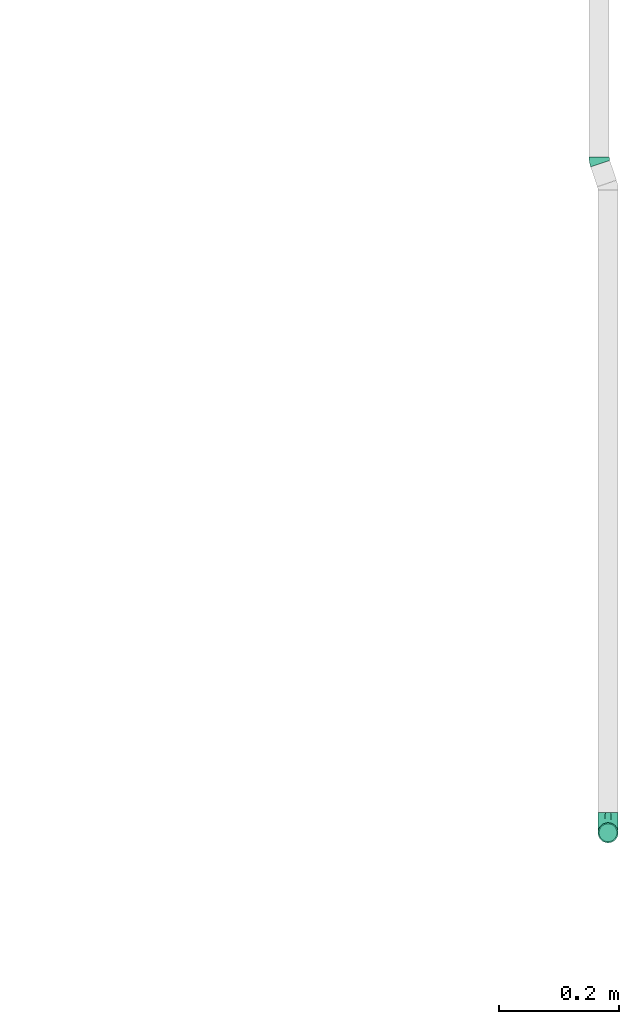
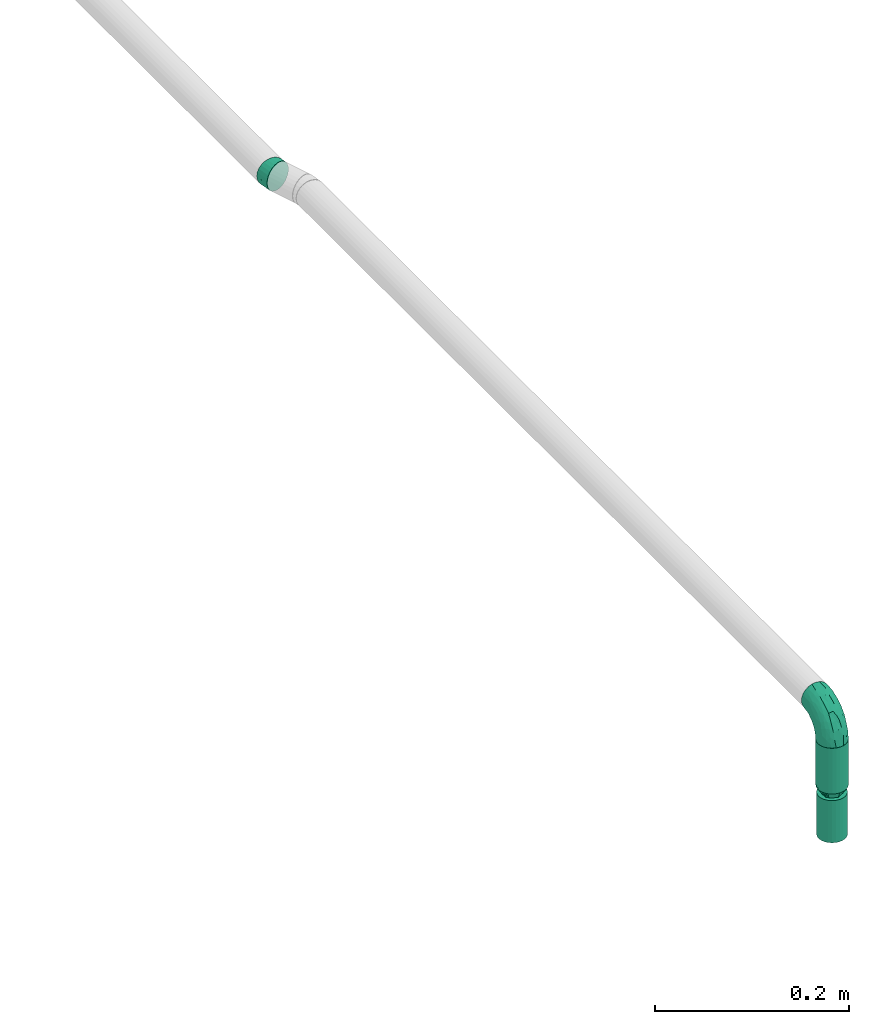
# One storey, part 22 of 32: 3 flow fittings, 1 flow segment, 1 flow terminal.
"""IFC2X3 building model written with IfcOpenShell, lengths in millimetres."""

from ifc_helpers import new_model, entity, si_unit, converted_unit, derived_unit, direction, frame, origin_with_axes, origin_2d_with_axis, place, context, subcontext, project, spatial, hollow_circle, extrude, open_shell, surface_model, source, transform, mapped, type_object, element, save


model = new_model("IFC2X3")

# Units and contexts
model_context = context("Model", 3, precision=0.01, world=frame((0.0, 4.29681676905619e-09, 0.0)), true_north=direction((4.01073788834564e-13, 1.0)))
plan_context = context("Plan", 3, precision=0.01, world=frame((0.0, 4.29681676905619e-09, 0.0)), true_north=direction((4.01073788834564e-13, 1.0)))
body_context = subcontext(model_context, "Body", "Model", "MODEL_VIEW")
ifc_project = project(units=[converted_unit("PLANEANGLEUNIT", "DEGREE", entity("IfcPositiveLengthMeasure", 0.0174532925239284), si_unit("PLANEANGLEUNIT", "RADIAN"), dimensions=[0, 0, 0, 0, 0, 0, 0]), si_unit("AREAUNIT", "SQUARE_METRE"), si_unit("LENGTHUNIT", "METRE", prefix="MILLI"), si_unit("MASSUNIT", "GRAM", prefix="KILO"), si_unit("POWERUNIT", "WATT"), si_unit("PRESSUREUNIT", "PASCAL", prefix="KILO"), si_unit("FORCEUNIT", "NEWTON", prefix="KILO"), si_unit("ELECTRICVOLTAGEUNIT", "VOLT"), si_unit("ELECTRICCURRENTUNIT", "AMPERE"), si_unit("THERMODYNAMICTEMPERATUREUNIT", "DEGREE_CELSIUS"), si_unit("TIMEUNIT", "SECOND"), si_unit("VOLUMEUNIT", "CUBIC_METRE"), derived_unit("LINEARVELOCITYUNIT", [(si_unit("LENGTHUNIT", "METRE"), 1), (si_unit("TIMEUNIT", "SECOND"), -1)]), derived_unit("VOLUMETRICFLOWRATEUNIT", [(si_unit("VOLUMEUNIT", "CUBIC_METRE"), 1), (si_unit("TIMEUNIT", "SECOND"), -1)]), derived_unit("THERMALTRANSMITTANCEUNIT", [(si_unit("POWERUNIT", "WATT"), 1), (si_unit("THERMODYNAMICTEMPERATUREUNIT", "KELVIN"), -1), (si_unit("AREAUNIT", "SQUARE_METRE"), -1)]), derived_unit("SOUNDPRESSUREUNIT", [(si_unit("PRESSUREUNIT", "PASCAL"), 1)])], contexts=[model_context, plan_context])

# Site, building, storey
site_placement = place(None, frame((0.0, -4.29681676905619e-09, 0.0), z_axis=(0.0, 0.0, 1.0), x_axis=(1.0, 0.0, 0.0)))
site = spatial("IfcSite", under=ifc_project, at=site_placement, CompositionType="ELEMENT")
building_placement = place(site_placement, frame((0.0, 4.29681676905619e-09, 0.0), z_axis=(0.0, 0.0, 1.0), x_axis=(1.0, 0.0, 0.0)))
building = spatial("IfcBuilding", under=site, at=building_placement, Name="mc-building", CompositionType="ELEMENT")
storey_placement = place(building_placement, frame((0.0, 0.0, 205200.0), z_axis=(0.0, 0.0, 1.0), x_axis=(1.0, 0.0, 0.0)))
storey = spatial("IfcBuildingStorey", under=building, at=storey_placement, Name="Nivå D + 1,2 m", CompositionType="ELEMENT", Elevation=205200.0)

# Flow fittings
pipe_fitting_type_1 = type_object("IfcPipeFittingType", Name="magi_pipe_fe_elbow_short_001", PredefinedType="BEND")
shared_shape_1 = source(origin_with_axes(), body_context, "Body", "SurfaceModel", [
    surface_model("IfcShellBasedSurfaceModel", [(-33.8, -11.9501, -11.9501), (-33.8, -14.63583, -8.45), (-33.8, -8.45, -14.63583), (-33.8, 0.0, -16.9), (-33.8, -4.37404, -16.32415), (-33.8, -16.32415, -4.37404), (-33.8, -16.9, 0.0), (-33.8, 11.9501, 11.9501), (-33.8, 14.63583, 8.45), (-33.8, 8.45, 14.63583), (-33.8, -11.9501, 11.9501), (-33.8, -8.45, 14.63583), (-33.8, -14.63583, 8.45), (-33.8, -16.32415, 4.37404), (-33.8, -4.37404, 16.32415), (-33.8, 0.0, 16.9), (-33.8, 16.9, 0.0), (-33.8, 16.32415, -4.37404), (-33.8, 16.32415, 4.37404), (-33.8, 4.37404, -16.32415), (-33.8, 8.45, -14.63583), (-33.8, 14.63583, -8.45), (-33.8, 11.9501, -11.9501), (-33.8, 4.37404, 16.32415), (-4.37404, 33.8, -16.32415), (16.9, 33.8, 0.0), (0.0, 33.8, -16.9), (-16.32415, 33.8, -4.37404), (-8.45, 33.8, -14.63583), (-14.63583, 33.8, -8.45), (-11.9501, 33.8, -11.9501), (16.32415, 33.8, 4.37404), (8.45, 33.8, -14.63583), (14.63583, 33.8, -8.45), (11.9501, 33.8, -11.9501), (4.37404, 33.8, -16.32415), (16.32415, 33.8, -4.37404), (-16.32415, 33.8, 4.37404), (-4.37404, 33.8, 16.32415), (-14.63583, 33.8, 8.45), (-8.45, 33.8, 14.63583), (-11.9501, 33.8, 11.9501), (14.63583, 33.8, 8.45), (8.45, 33.8, 14.63583), (11.9501, 33.8, 11.9501), (0.0, 33.8, 16.9), (4.37404, 33.8, 16.32415), (-16.9, 33.8, 0.0), (-24.79389, -13.12945, 9.48721), (-22.19287, -9.75018, 12.59315), (-24.09897, -14.97035, 0.0), (-14.93934, -10.76256, 8.5297), (-22.46095, -14.75051, 5.27077), (14.75051, 22.46094, 5.27077), (11.9251, 13.23888, 4.33236), (13.04069, 14.39795, 0.0), (7.71387, 13.68847, 11.55891), (9.75018, 22.19287, 12.59315), (4.10169, 13.0571, 14.04018), (-24.84007, -6.39063, 15.2048), (-25.81779, -2.23879, 16.61097), (-23.66549, 2.59054, 16.87119), (-26.50418, 14.06512, 11.08152), (-24.21253, 17.66365, 7.72657), (-29.58514, 15.86957, 7.00283), (-6.17382, -7.5455, 0.0), (-13.23888, -11.9251, 4.33236), (-14.39795, -13.04069, 0.0), (-17.81434, 18.87373, 11.97104), (-6.30846, 29.15138, 15.82987), (-2.31622, 25.28002, 16.85849), (-29.23923, 10.23435, 13.77053), (-1.45439, -2.85688, 7.61475), (-0.28326, 0.34872, 10.09509), (-5.74484, -4.04709, 10.4122), (-4.41137, 11.31918, 16.59407), (-8.39727, 3.10034, 15.7812), (-1.72649, 9.1306, 15.53089), (-17.39909, 24.75344, 7.64977), (-26.19233, 20.0512, 0.0), (-28.14518, 17.29657, 4.25857), (-26.05147, 6.6281, 15.96447), (-5.87354, 16.61944, 16.86968), (-12.51807, 12.51807, 16.48937), (-10.06312, 7.38516, 16.81295), (-3.01882, 3.01882, 13.81718), (-13.0571, -4.10169, 14.04018), (-16.82553, -0.15166, 16.38038), (10.76256, 14.93934, 8.5297), (13.12945, 24.79389, 9.48721), (6.39063, 24.84007, 15.2048), (2.23879, 25.81779, 16.61097), (-13.68847, -7.71387, 11.55891), (14.97035, 24.09897, 0.0), (-7.30894, 22.89991, 16.09489), (-10.67958, 26.17414, 14.008), (-12.78295, 18.26924, 15.06066), (-13.88562, 22.45231, 12.93244), (-18.04944, 15.16501, 14.04434), (-23.11658, 20.08178, 4.02986), (-21.84989, 21.84989, 0.0), (-18.55817, 25.48277, 3.93065), (-13.95142, 26.94732, 11.03289), (-18.57098, 7.23906, 16.59756), (-16.58335, 4.14122, 16.89279), (-17.96666, 11.46709, 15.63151), (-9.84453, 17.54304, 16.18938), (0.15166, 16.82553, 16.38038), (-23.27207, 11.47201, 14.23154), (3.84842, 5.86994, 10.70473), (-8.0212, -7.54413, 7.93275), (1.00345, -2.19508, 4.57414), (5.13203, 3.01004, 5.90201), (5.24161, 1.7543, 2.53265), (8.70457, 7.04947, 3.99182), (-20.0512, 26.19233, 0.0), (8.4852, 8.76699, 7.09296), (-4.55488, -6.72064, 4.90681), (2.05031, -2.05031, 0.0), (7.5455, 6.17382, 0.0), (-26.75399, 2.1369, -16.845), (-14.61995, 24.73803, -11.27736), (-28.45274, -13.45335, -9.81895), (-26.00469, 6.63555, -15.96645), (-23.06726, 20.04573, -4.26202), (-13.80647, -4.26506, -14.17873), (-14.67501, -0.21081, -16.07388), (-6.7902, -0.2828, -13.8478), (-24.53586, 11.08096, -14.13417), (-26.72048, 14.00837, -11.05776), (10.0967, 24.44989, -12.75976), (5.83237, 21.40218, -15.03047), (6.66249, 28.54238, -15.38093), (-20.38182, 15.48705, -12.74596), (12.53268, 21.23441, -9.15363), (12.54494, 15.67504, -5.54878), (9.7522, 12.89279, -8.66343), (-15.65186, 19.64213, -13.01327), (-12.03528, 20.66498, -14.67665), (-15.61907, 15.61906, -14.83879), (-25.56551, -15.26206, 0.0), (-24.65452, -15.12934, -5.50955), (13.45335, 28.45274, -9.81895), (15.12934, 24.65452, -5.50955), (-7.35442, -8.31014, -5.65563), (-15.67504, -12.54494, -5.54878), (-24.44989, -10.0967, -12.75976), (0.16522, 0.41303, -9.71728), (-5.70658, -5.33066, -8.89288), (-5.13869, -2.37198, -11.53565), (-21.23441, -12.53268, -9.15363), (0.71146, 7.93863, -14.09382), (0.21081, 14.67501, -16.07388), (3.49291, 14.42772, -14.76381), (-24.89911, -2.13088, -16.591), (-28.54238, -6.66249, -15.38093), (-18.44386, -7.71663, -13.26957), (2.13088, 24.89911, -16.591), (-28.64342, 17.44413, -2.89318), (1.70017, -1.28722, -5.09504), (-16.57067, 26.81947, -7.36596), (-17.69055, 27.4263, -3.76405), (-12.89279, -9.7522, -8.66343), (-5.96611, 5.96611, -15.95814), (-20.53709, 20.09345, -8.28985), (-2.1369, 26.75399, -16.845), (-6.89872, 24.58781, -16.02578), (-10.60739, 26.53157, -13.98044), (-21.40218, -5.83237, -15.03047), (2.93192, 5.89627, -11.55917), (6.89393, 12.61842, -11.82233), (5.58056, 5.95325, -8.79455), (-3.99512, 18.61798, -16.89635), (8.31014, 7.35442, -5.65563), (-9.1383, 9.86148, -16.89041), (-9.99983, 16.02119, -16.39699), (-16.68576, 9.78031, -16.34199), (-27.01915, 16.61158, -7.12979), (15.26206, 25.56551, 0.0), (-18.61798, 3.99512, -16.89635), (-19.37495, 27.82495, 0.0), (-12.61842, -6.89393, -11.82233), (-18.84705, 19.14018, -10.96545)], [open_shell([[[0, 1, 2]], [[3, 4, 2]], [[5, 6, 1]], [[7, 8, 9]], [[10, 11, 12]], [[13, 12, 11]], [[14, 15, 11]], [[16, 17, 18]], [[3, 6, 19]], [[20, 19, 17]], [[20, 17, 21]], [[22, 20, 21]], [[17, 19, 6]], [[2, 1, 6]], [[2, 6, 3]], [[6, 18, 17]], [[23, 18, 6]], [[8, 18, 23]], [[8, 23, 9]], [[13, 23, 6]], [[23, 13, 11]], [[11, 15, 23]], [[24, 25, 26]], [[27, 24, 28]], [[29, 27, 28]], [[29, 28, 30]], [[31, 25, 24]], [[32, 33, 34]], [[32, 35, 26]], [[33, 25, 36]], [[33, 32, 26]], [[25, 33, 26]], [[24, 27, 37]], [[31, 24, 37]], [[38, 37, 39]], [[40, 38, 39]], [[40, 39, 41]], [[31, 37, 38]], [[42, 43, 44]], [[43, 42, 31]], [[43, 45, 46]], [[43, 31, 38]], [[38, 45, 43]], [[37, 27, 47]], [[10, 48, 49]], [[13, 6, 50]], [[51, 48, 52]], [[53, 54, 55]], [[48, 10, 12]], [[13, 52, 12]], [[56, 57, 58]], [[49, 11, 10]], [[49, 59, 11]], [[15, 60, 61]], [[62, 63, 64]], [[65, 66, 67]], [[57, 44, 43]], [[62, 68, 63]], [[38, 69, 70]], [[9, 71, 7]], [[14, 60, 15]], [[72, 73, 74]], [[75, 76, 77]], [[7, 62, 8]], [[39, 37, 78]], [[79, 16, 80]], [[64, 18, 8]], [[15, 61, 23]], [[23, 81, 9]], [[82, 83, 84]], [[74, 85, 86]], [[59, 86, 87]], [[88, 89, 57]], [[90, 43, 46]], [[42, 53, 31]], [[46, 45, 91]], [[54, 53, 88]], [[42, 89, 53]], [[92, 86, 49]], [[89, 42, 44]], [[11, 59, 14]], [[53, 55, 93]], [[93, 31, 53]], [[66, 52, 67]], [[94, 82, 70]], [[95, 96, 94]], [[97, 98, 96]], [[79, 99, 100]], [[40, 41, 95]], [[101, 100, 99]], [[68, 78, 63]], [[38, 40, 69]], [[16, 18, 80]], [[95, 94, 69]], [[78, 101, 99]], [[41, 102, 95]], [[70, 45, 38]], [[97, 95, 102]], [[13, 50, 52]], [[90, 57, 43]], [[57, 90, 58]], [[81, 23, 61]], [[103, 104, 84]], [[105, 81, 103]], [[41, 39, 102]], [[106, 96, 83]], [[94, 106, 82]], [[91, 70, 107]], [[71, 62, 7]], [[62, 108, 98]], [[86, 59, 49]], [[67, 52, 50]], [[60, 59, 87]], [[92, 49, 51]], [[86, 85, 76]], [[91, 90, 46]], [[25, 31, 93]], [[107, 77, 58]], [[107, 58, 90]], [[58, 85, 109]], [[110, 74, 92]], [[72, 74, 110]], [[66, 51, 52]], [[72, 111, 112]], [[113, 114, 112]], [[56, 88, 57]], [[52, 48, 12]], [[49, 48, 51]], [[57, 89, 44]], [[53, 89, 88]], [[103, 81, 61]], [[71, 81, 108]], [[18, 64, 80]], [[63, 78, 99]], [[47, 115, 101]], [[101, 115, 100]], [[39, 78, 102]], [[68, 102, 78]], [[97, 96, 95]], [[105, 98, 108]], [[103, 84, 83]], [[107, 70, 82]], [[76, 84, 87]], [[82, 84, 75]], [[70, 91, 45]], [[90, 91, 107]], [[59, 60, 14]], [[61, 60, 87]], [[73, 85, 74]], [[109, 112, 116]], [[103, 61, 104]], [[105, 103, 83]], [[96, 105, 83]], [[81, 105, 108]], [[96, 98, 105]], [[62, 98, 68]], [[61, 87, 104]], [[87, 84, 104]], [[86, 76, 87]], [[77, 76, 85]], [[58, 77, 85]], [[75, 77, 107]], [[82, 75, 107]], [[76, 75, 84]], [[81, 71, 9]], [[62, 71, 108]], [[95, 69, 40]], [[70, 69, 94]], [[62, 64, 8]], [[80, 63, 99]], [[63, 80, 64]], [[80, 99, 79]], [[66, 65, 117]], [[110, 66, 117]], [[112, 114, 116]], [[118, 117, 65]], [[110, 92, 51]], [[112, 111, 113]], [[119, 55, 54]], [[74, 86, 92]], [[58, 109, 56]], [[116, 56, 109]], [[66, 110, 51]], [[72, 110, 117]], [[111, 72, 117]], [[73, 112, 109]], [[117, 118, 111]], [[113, 111, 118]], [[118, 119, 113]], [[114, 119, 54]], [[119, 114, 113]], [[116, 54, 88]], [[54, 116, 114]], [[116, 88, 56]], [[112, 73, 72]], [[85, 73, 109]], [[78, 37, 101]], [[47, 101, 37]], [[102, 68, 97]], [[97, 68, 98]], [[82, 106, 83]], [[94, 96, 106]], [[19, 120, 3]], [[29, 30, 121]], [[0, 122, 1]], [[20, 123, 19]], [[100, 124, 79]], [[125, 126, 127]], [[128, 22, 129]], [[130, 131, 132]], [[128, 129, 133]], [[134, 135, 136]], [[137, 138, 139]], [[128, 20, 22]], [[67, 140, 141]], [[134, 142, 143]], [[141, 5, 1]], [[144, 65, 145]], [[146, 0, 2]], [[147, 148, 149]], [[145, 141, 150]], [[151, 152, 153]], [[154, 4, 3]], [[2, 155, 146]], [[150, 146, 156]], [[155, 2, 4]], [[143, 135, 134]], [[35, 157, 26]], [[16, 79, 158]], [[148, 159, 144]], [[160, 161, 27]], [[145, 162, 144]], [[163, 152, 151]], [[27, 29, 160]], [[121, 164, 160]], [[32, 34, 130]], [[26, 165, 24]], [[24, 165, 166]], [[142, 34, 33]], [[30, 28, 167]], [[124, 161, 164]], [[157, 35, 132]], [[155, 154, 168]], [[123, 20, 128]], [[169, 170, 171]], [[172, 157, 152]], [[24, 166, 28]], [[132, 35, 32]], [[142, 130, 34]], [[168, 154, 126]], [[136, 135, 173]], [[133, 137, 139]], [[22, 21, 129]], [[170, 131, 130]], [[33, 36, 143]], [[172, 174, 175]], [[176, 123, 128]], [[158, 177, 17]], [[135, 55, 119]], [[167, 28, 166]], [[175, 166, 172]], [[137, 167, 138]], [[122, 141, 1]], [[140, 6, 5]], [[36, 25, 178]], [[170, 130, 134]], [[152, 157, 131]], [[165, 157, 172]], [[153, 170, 151]], [[152, 163, 174]], [[168, 125, 156]], [[122, 146, 150]], [[120, 154, 3]], [[179, 174, 126]], [[179, 126, 154]], [[126, 163, 127]], [[162, 145, 150]], [[140, 5, 141]], [[36, 178, 143]], [[55, 143, 178]], [[177, 129, 21]], [[128, 133, 139]], [[176, 128, 139]], [[120, 123, 179]], [[121, 160, 29]], [[161, 100, 180]], [[166, 175, 138]], [[121, 30, 167]], [[161, 47, 27]], [[79, 124, 158]], [[124, 164, 177]], [[161, 124, 100]], [[136, 171, 170]], [[127, 163, 151]], [[147, 171, 159]], [[148, 144, 162]], [[127, 151, 169]], [[127, 181, 125]], [[129, 177, 164]], [[21, 17, 177]], [[159, 65, 144]], [[67, 141, 145]], [[143, 55, 135]], [[135, 119, 173]], [[123, 120, 19]], [[154, 120, 179]], [[157, 165, 26]], [[166, 165, 172]], [[172, 152, 174]], [[176, 139, 175]], [[126, 174, 163]], [[176, 174, 179]], [[174, 176, 175]], [[123, 176, 179]], [[150, 181, 162]], [[127, 149, 181]], [[181, 148, 162]], [[159, 148, 147]], [[171, 136, 173]], [[170, 134, 136]], [[159, 171, 173]], [[171, 147, 169]], [[169, 147, 149]], [[151, 170, 169]], [[164, 182, 129]], [[182, 121, 137]], [[181, 149, 148]], [[169, 149, 127]], [[182, 137, 133]], [[167, 137, 121]], [[166, 138, 167]], [[175, 139, 138]], [[129, 182, 133]], [[121, 182, 164]], [[161, 160, 164]], [[47, 161, 180]], [[177, 158, 124]], [[16, 158, 17]], [[130, 132, 32]], [[157, 132, 131]], [[143, 142, 33]], [[130, 142, 134]], [[154, 155, 4]], [[146, 155, 168]], [[146, 122, 0]], [[141, 122, 150]], [[152, 131, 153]], [[159, 119, 118]], [[67, 145, 65]], [[170, 153, 131]], [[119, 159, 173]], [[159, 118, 65]], [[156, 125, 181]], [[126, 125, 168]], [[150, 156, 181]], [[168, 156, 146]]])]),
])
flow_fitting_1_placement = place(storey_placement, frame((347627.5, 460358.43146, 4433.60793), z_axis=(1.0, 0.0, 0.0), x_axis=(0.0, -1.0, 0.0)))
element("IfcFlowFitting", 1, at=flow_fitting_1_placement, inside=storey, type_object=pipe_fitting_type_1, Name="magi_pipe_fe_elbow_short_001", context=body_context, shape_type="MappedRepresentation", body=[
    mapped(shared_shape_1, transform((0.0, 0.0, 0.0), scale=1.0)),
])
pipe_fitting_type_2 = type_object("IfcPipeFittingType", Name="magi_pipe_fe_reducer_centric_short_001", PredefinedType="TRANSITION")
shared_shape_2 = source(origin_with_axes(), body_context, "Body", "SurfaceModel", [
    surface_model("IfcShellBasedSurfaceModel", [(-2.0, 11.9501, 11.9501), (-2.0, 0.0, 16.9), (-2.0, 4.37404, 16.32415), (-2.0, 8.45, 14.63583), (-2.0, 14.63583, 8.45), (-2.0, 16.32415, 4.37404), (-2.0, -16.32415, 4.37404), (-2.0, -8.45, 14.63583), (-2.0, -14.63583, 8.45), (-2.0, -11.9501, 11.9501), (-2.0, -4.37404, 16.32415), (-2.0, -16.32415, -4.37404), (-2.0, -16.9, 0.0), (-2.0, -8.45, -14.63583), (-2.0, 16.32415, -4.37404), (-2.0, 11.9501, -11.9501), (-2.0, 14.63583, -8.45), (-2.0, 8.45, -14.63583), (-2.0, 4.37404, -16.32415), (-2.0, 0.0, -16.9), (-2.0, -11.9501, -11.9501), (-2.0, -14.63583, -8.45), (-2.0, -4.37404, -16.32415), (-2.0, 16.9, 0.0), (0.0, 4.37404, -16.32415), (0.0, 8.45, -14.63583), (0.0, 11.9501, -11.9501), (0.0, 0.0, -16.9), (0.0, 16.32415, -4.37404), (0.0, 16.32415, 4.37404), (0.0, 14.63583, -8.45), (0.0, -8.45, -14.63583), (0.0, -4.37404, -16.32415), (0.0, -11.9501, -11.9501), (0.0, -16.32415, -4.37404), (0.0, -14.63583, -8.45), (0.0, -16.32415, 4.37404), (0.0, 16.9, 0.0), (0.0, 14.63583, 8.45), (0.0, 11.9501, 11.9501), (0.0, 4.37404, 16.32415), (0.0, 8.45, 14.63583), (0.0, 0.0, 16.9), (0.0, -14.63583, 8.45), (0.0, -16.9, 0.0), (0.0, -8.45, 14.63583), (0.0, -11.9501, 11.9501), (0.0, -4.37404, 16.32415), (14.4, 5.35, -9.26647), (14.4, 0.0, -10.7), (14.4, 2.76936, -10.33541), (14.4, 10.33541, -2.76936), (14.4, 7.56604, -7.56604), (14.4, -5.35, -9.26647), (14.4, 9.26647, -5.35), (14.4, -9.26647, 5.35), (14.4, -2.76936, -10.33541), (14.4, -7.56604, -7.56604), (14.4, -10.33541, -2.76936), (14.4, -9.26647, -5.35), (14.4, 10.33541, 2.76936), (14.4, 10.7, 0.0), (14.4, 9.26647, 5.35), (14.4, 7.56604, 7.56604), (14.4, 2.76936, 10.33541), (14.4, 0.0, 10.7), (14.4, 5.35, 9.26647), (14.4, -10.33541, 2.76936), (14.4, -10.7, 0.0), (14.4, -7.56604, 7.56604), (14.4, -2.76936, 10.33541), (14.4, -5.35, 9.26647), (12.4, 0.0, 10.7), (12.4, 2.76936, 10.33541), (12.4, 5.35, 9.26647), (12.4, 7.56604, 7.56604), (12.4, 9.26647, 5.35), (12.4, 10.33541, 2.76936), (12.4, -10.33541, 2.76936), (12.4, 10.33541, -2.76936), (12.4, -2.76936, 10.33541), (12.4, -7.56604, 7.56604), (12.4, -5.35, 9.26647), (12.4, -9.26647, 5.35), (12.4, -10.33541, -2.76936), (12.4, -10.7, 0.0), (12.4, 2.76936, -10.33541), (12.4, 9.26647, -5.35), (12.4, 7.56604, -7.56604), (12.4, 5.35, -9.26647), (12.4, -7.56604, -7.56604), (12.4, -9.26647, -5.35), (12.4, -5.35, -9.26647), (12.4, 0.0, -10.7), (12.4, -2.76936, -10.33541), (12.4, 10.7, 0.0), (12.4, 9.3625, -2.31662), (0.0, 14.42505, -5.97505), (0.0, 15.66253, -2.98753), (12.4, -6.6875, -6.94985), (0.0, -13.18758, -8.96258), (0.0, 2.98753, -15.66253), (12.4, 0.0, -9.26647), (12.4, 6.6875, -6.94985), (0.0, 8.96258, -13.18758), (12.4, -9.3625, -2.31662), (0.0, -15.66253, -2.98753), (0.0, -14.42505, -5.97505), (0.0, 5.97505, -14.42505), (0.0, -2.98753, -15.66253), (0.0, -8.96258, -13.18758), (0.0, 13.18758, -8.96258), (12.4, 8.025, -4.63324), (12.4, -2.675, -9.26647), (12.4, 2.675, -9.26647), (0.0, -5.97505, -14.42505), (12.4, -8.025, -4.63324), (12.4, -9.3625, 2.31662), (0.0, -14.42505, 5.97505), (0.0, -15.66253, 2.98753), (12.4, 6.6875, 6.94985), (0.0, 13.18758, 8.96258), (0.0, -2.98753, 15.66253), (12.4, 0.0, 9.26647), (12.4, -6.6875, 6.94985), (0.0, -8.96258, 13.18758), (12.4, 9.3625, 2.31662), (0.0, 15.66253, 2.98753), (0.0, 14.42505, 5.97505), (0.0, -5.97505, 14.42505), (0.0, 2.98753, 15.66253), (0.0, 8.96258, 13.18758), (0.0, -13.18758, 8.96258), (12.4, -8.025, 4.63324), (12.4, 2.675, 9.26647), (12.4, -2.675, 9.26647), (0.0, 5.97505, 14.42505), (12.4, 8.025, 4.63324)], [open_shell([[[0, 1, 2]], [[0, 2, 3]], [[0, 4, 5]], [[0, 5, 1]], [[1, 5, 6]], [[7, 8, 9]], [[7, 10, 1]], [[8, 7, 1]], [[1, 6, 8]], [[6, 11, 12]], [[6, 5, 13]], [[5, 14, 15]], [[15, 14, 16]], [[15, 17, 18]], [[13, 5, 15]], [[19, 15, 18]], [[11, 20, 21]], [[20, 11, 13]], [[13, 19, 22]], [[11, 6, 13]], [[15, 19, 13]], [[5, 23, 14]], [[24, 25, 26]], [[27, 24, 26]], [[26, 28, 29]], [[28, 26, 30]], [[26, 29, 31]], [[27, 31, 32]], [[27, 26, 31]], [[33, 34, 35]], [[34, 33, 31]], [[31, 36, 34]], [[29, 28, 37]], [[29, 38, 39]], [[29, 39, 40]], [[40, 36, 31]], [[40, 39, 41]], [[36, 40, 42]], [[42, 43, 36]], [[44, 34, 36]], [[43, 45, 46]], [[43, 42, 45]], [[45, 42, 47]], [[31, 29, 40]], [[11, 34, 12]], [[21, 35, 11]], [[31, 20, 13]], [[21, 20, 33]], [[32, 13, 22]], [[11, 35, 34]], [[34, 44, 12]], [[32, 31, 13]], [[33, 20, 31]], [[33, 35, 21]], [[27, 32, 22]], [[22, 19, 27]], [[18, 24, 19]], [[17, 25, 18]], [[30, 15, 16]], [[17, 15, 26]], [[28, 16, 14]], [[17, 26, 25]], [[25, 24, 18]], [[37, 28, 14]], [[30, 16, 28]], [[30, 26, 15]], [[23, 37, 14]], [[19, 24, 27]], [[5, 29, 23]], [[4, 38, 5]], [[41, 0, 3]], [[4, 0, 39]], [[40, 3, 2]], [[5, 38, 29]], [[29, 37, 23]], [[40, 41, 3]], [[39, 0, 41]], [[39, 38, 4]], [[42, 40, 2]], [[2, 1, 42]], [[10, 47, 1]], [[7, 45, 10]], [[43, 9, 8]], [[7, 9, 46]], [[36, 8, 6]], [[7, 46, 45]], [[45, 47, 10]], [[44, 36, 6]], [[43, 8, 36]], [[43, 46, 9]], [[12, 44, 6]], [[1, 47, 42]], [[33, 44, 27]], [[48, 49, 50]], [[51, 48, 52]], [[53, 48, 51]], [[51, 52, 54]], [[55, 53, 51]], [[49, 53, 56]], [[49, 48, 53]], [[57, 58, 59]], [[58, 57, 53]], [[53, 55, 58]], [[60, 51, 61]], [[60, 62, 63]], [[51, 63, 55]], [[64, 65, 63]], [[64, 63, 66]], [[55, 63, 65]], [[58, 67, 68]], [[55, 67, 58]], [[69, 70, 71]], [[70, 69, 55]], [[65, 70, 55]], [[51, 60, 63]], [[72, 73, 74]], [[72, 74, 75]], [[75, 76, 77]], [[72, 75, 78]], [[79, 78, 75]], [[80, 81, 82]], [[81, 80, 78]], [[81, 78, 83]], [[80, 72, 78]], [[78, 84, 85]], [[79, 75, 77]], [[84, 78, 79]], [[86, 79, 87]], [[88, 89, 86]], [[88, 86, 87]], [[84, 79, 86]], [[84, 90, 91]], [[90, 84, 92]], [[92, 93, 94]], [[92, 84, 86]], [[86, 93, 92]], [[79, 77, 95]], [[84, 58, 85]], [[91, 59, 84]], [[53, 90, 92]], [[91, 90, 57]], [[56, 92, 94]], [[84, 59, 58]], [[58, 68, 85]], [[56, 53, 92]], [[57, 90, 53]], [[57, 59, 91]], [[49, 56, 94]], [[94, 93, 49]], [[86, 50, 93]], [[89, 48, 86]], [[54, 88, 87]], [[89, 88, 52]], [[51, 87, 79]], [[89, 52, 48]], [[48, 50, 86]], [[61, 51, 79]], [[54, 87, 51]], [[54, 52, 88]], [[95, 61, 79]], [[93, 50, 49]], [[77, 60, 95]], [[76, 62, 77]], [[66, 75, 74]], [[76, 75, 63]], [[64, 74, 73]], [[77, 62, 60]], [[60, 61, 95]], [[64, 66, 74]], [[63, 75, 66]], [[63, 62, 76]], [[65, 64, 73]], [[73, 72, 65]], [[80, 70, 72]], [[82, 71, 80]], [[55, 81, 83]], [[82, 81, 69]], [[67, 83, 78]], [[82, 69, 71]], [[71, 70, 80]], [[68, 67, 78]], [[55, 83, 67]], [[55, 69, 81]], [[85, 68, 78]], [[72, 70, 65]], [[74, 82, 95]], [[95, 82, 92]], [[92, 89, 95]], [[92, 82, 85]], [[42, 39, 44]], [[44, 46, 42]], [[39, 26, 44]], [[27, 44, 26]], [[26, 39, 37]], [[96, 97, 98]], [[33, 99, 100]], [[101, 102, 27]], [[98, 37, 95]], [[26, 103, 104]], [[104, 103, 89]], [[105, 106, 107]], [[89, 108, 104]], [[102, 109, 27]], [[110, 99, 33]], [[95, 96, 98]], [[103, 111, 112]], [[109, 102, 113]], [[85, 44, 106]], [[102, 101, 114]], [[110, 115, 92]], [[96, 112, 97]], [[107, 116, 105]], [[85, 106, 105]], [[113, 115, 109]], [[92, 115, 113]], [[116, 107, 100]], [[108, 89, 114]], [[111, 103, 26]], [[111, 97, 112]], [[99, 110, 92]], [[116, 100, 99]], [[101, 108, 114]], [[117, 118, 119]], [[39, 120, 121]], [[122, 123, 42]], [[119, 44, 85]], [[46, 124, 125]], [[125, 124, 82]], [[126, 127, 128]], [[82, 129, 125]], [[123, 130, 42]], [[131, 120, 39]], [[85, 117, 119]], [[124, 132, 133]], [[130, 123, 134]], [[95, 37, 127]], [[123, 122, 135]], [[131, 136, 74]], [[117, 133, 118]], [[128, 137, 126]], [[95, 127, 126]], [[134, 136, 130]], [[74, 136, 134]], [[137, 128, 121]], [[129, 82, 135]], [[132, 124, 46]], [[132, 118, 133]], [[120, 131, 74]], [[137, 121, 120]], [[122, 129, 135]]])]),
])
flow_fitting_2_placement = place(storey_placement, frame((347627.5, 460358.43146, 4342.78346000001), z_axis=(1.0, 0.0, 0.0), x_axis=(0.0, 0.0, -1.0)))
element("IfcFlowFitting", 2, at=flow_fitting_2_placement, inside=storey, type_object=pipe_fitting_type_2, Name="magi_pipe_fe_reducer_centric_short_001", context=body_context, shape_type="MappedRepresentation", body=[
    mapped(shared_shape_2, transform((0.0, 0.0, 0.0), scale=1.0)),
])
shared_shape_3 = source(origin_with_axes(), body_context, "Body", "SurfaceModel", [
    surface_model("IfcShellBasedSurfaceModel", [(-5.62725, 4.37404, -16.32415), (-5.62725, 0.0, -16.9), (-5.62725, 11.9501, -11.9501), (-5.62725, 8.45, -14.63583), (-5.62725, 16.32415, -4.37404), (-5.62725, 14.63583, -8.45), (-5.62725, -14.63583, -8.45), (-5.62725, -16.32415, -4.37404), (-5.62725, -8.45, 14.63583), (-5.62725, -11.9501, -11.9501), (-5.62725, -8.45, -14.63583), (-5.62725, -4.37404, -16.32415), (-5.62725, -16.9, 0.0), (-5.62725, -16.32415, 4.37404), (-5.62725, 11.9501, 11.9501), (-5.62725, 16.32415, 4.37404), (-5.62725, 14.63583, 8.45), (-5.62725, 4.37404, 16.32415), (-5.62725, 8.45, 14.63583), (-5.62725, -14.63583, 8.45), (-5.62725, -11.9501, 11.9501), (-5.62725, -4.37404, 16.32415), (-5.62725, 0.0, 16.9), (-5.62725, 16.9, 0.0), (1.45196, 13.1287, -11.9501), (5.32371, 1.82319, -16.9), (3.90655, 5.96129, -16.32415), (2.58597, 9.81739, -14.63583), (0.58181, 15.66955, -8.45), (0.0348, 17.2668, -4.37404), (9.19546, -9.48232, -11.9501), (9.19546, -9.48232, 11.9501), (8.06145, -6.17101, -14.63583), (6.74087, -2.31491, -16.32415), (10.61262, -13.62042, -4.37404), (10.06562, -12.02318, -8.45), (10.06562, -12.02318, 8.45), (10.61262, -13.62042, 4.37404), (10.79919, -14.16522, 0.0), (-0.15177, 17.81159, 0.0), (0.0348, 17.2668, 4.37404), (0.58181, 15.66955, 8.45), (1.45196, 13.1287, 11.9501), (2.58597, 9.81739, 14.63583), (3.90655, 5.96129, 16.32415), (5.32371, 1.82319, 16.9), (8.06145, -6.17101, 14.63583), (6.74087, -2.31491, 16.32415), (-2.85183, 17.12946, 0.0), (2.69902, -16.21163, 0.0)], [open_shell([[[0, 1, 2]], [[3, 0, 2]], [[4, 5, 2]], [[6, 2, 1]], [[2, 7, 8]], [[9, 6, 10]], [[1, 11, 10]], [[1, 10, 6]], [[6, 7, 2]], [[12, 13, 7]], [[4, 2, 14]], [[14, 15, 4]], [[16, 15, 14]], [[17, 18, 14]], [[2, 8, 14]], [[17, 14, 8]], [[19, 20, 13]], [[13, 20, 7]], [[21, 22, 8]], [[20, 8, 7]], [[8, 22, 17]], [[23, 4, 15]], [[24, 25, 26]], [[24, 26, 27]], [[24, 28, 29]], [[25, 24, 30]], [[24, 31, 30]], [[25, 32, 33]], [[25, 30, 32]], [[30, 34, 35]], [[30, 36, 34]], [[34, 37, 38]], [[39, 24, 29]], [[39, 40, 41]], [[41, 42, 24]], [[42, 43, 44]], [[42, 31, 24]], [[45, 42, 44]], [[31, 36, 30]], [[37, 34, 36]], [[46, 45, 47]], [[45, 46, 31]], [[45, 31, 42]], [[41, 24, 39]], [[20, 19, 31]], [[46, 8, 20]], [[47, 21, 8]], [[45, 22, 21]], [[17, 22, 44]], [[13, 36, 19]], [[16, 14, 41]], [[18, 42, 14]], [[48, 15, 40]], [[48, 23, 15]], [[40, 15, 16]], [[43, 18, 17]], [[13, 12, 49]], [[46, 47, 8]], [[20, 31, 46]], [[47, 45, 21]], [[36, 13, 37]], [[19, 36, 31]], [[49, 38, 37]], [[41, 40, 16]], [[39, 48, 40]], [[43, 17, 44]], [[18, 43, 42]], [[41, 14, 42]], [[44, 22, 45]], [[13, 49, 37]], [[1, 33, 11]], [[1, 0, 25]], [[5, 28, 2]], [[2, 24, 3]], [[29, 5, 4]], [[3, 26, 0]], [[49, 12, 7]], [[34, 49, 7]], [[30, 9, 10]], [[7, 6, 34]], [[9, 35, 6]], [[32, 10, 11]], [[4, 23, 48]], [[48, 39, 29]], [[29, 28, 5]], [[24, 2, 28]], [[3, 27, 26]], [[3, 24, 27]], [[26, 25, 0]], [[32, 11, 33]], [[30, 10, 32]], [[6, 35, 34]], [[34, 38, 49]], [[35, 9, 30]], [[25, 33, 1]], [[4, 48, 29]]])]),
])
flow_fitting_3_placement = place(storey_placement, frame((347612.5, 461482.23146, 4433.60793), z_axis=(0.0, 0.0, 1.0), x_axis=(0.0, -1.0, 0.0)))
element("IfcFlowFitting", 3, at=flow_fitting_3_placement, inside=storey, type_object=pipe_fitting_type_1, Name="magi_pipe_fe_elbow_short_001", context=body_context, shape_type="MappedRepresentation", body=[
    mapped(shared_shape_3, transform((0.0, 0.0, 0.0), scale=1.0)),
])

# Flow segment
pipe_segment_type = type_object("IfcPipeSegmentType", Name="Stålrør normaltykke", PredefinedType="RIGIDSEGMENT")
shared_shape_4 = source(origin_with_axes(), body_context, "Body", "SweptSolid", [
    extrude(hollow_circle(Radius=16.9, WallThickness=2.0, at=origin_2d_with_axis()), frame((0.0, 0.0, 0.0), z_axis=(1.0, 0.0, 0.0), x_axis=(0.0, 1.0, 0.0)), (0.0, 0.0, 1.0), 57.4),
])
flow_segment_placement = place(storey_placement, frame((347627.5, 460358.43146, 4399.80793000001), z_axis=(-1.0, 0.0, 0.0), x_axis=(0.0, 0.0, -1.0)))
element("IfcFlowSegment", 4, at=flow_segment_placement, inside=storey, type_object=pipe_segment_type, Name="Stålrør normaltykke", context=body_context, shape_type="MappedRepresentation", body=[
    mapped(shared_shape_4, transform((0.0, 0.0, 0.0), scale=1.0)),
])

# Flow terminal
fire_suppression_terminal_type = type_object("IfcFireSuppressionTerminalType", Name="SP-15-K80-68DGR-STD-NEDOVER", PredefinedType="NOTDEFINED")
shared_shape_5 = source(origin_with_axes(), body_context, "Body", "SurfaceModel", [
    surface_model("IfcShellBasedSurfaceModel", [(4.1411, -15.45481, 53.0), (8.0, -13.85641, 53.0), (11.31371, -11.31371, 53.0), (-8.0, -13.85641, 53.0), (15.45481, -4.1411, 53.0), (16.0, 0.0, 53.0), (13.85641, -8.0, 53.0), (0.0, -16.0, 53.0), (-4.1411, -15.45481, 53.0), (-13.85641, -8.0, 53.0), (-11.31371, -11.31371, 53.0), (-15.45481, -4.1411, 53.0), (15.45481, 4.1411, 53.0), (13.85641, 8.0, 53.0), (11.31371, 11.31371, 53.0), (-4.1411, 15.45481, 53.0), (8.0, 13.85641, 53.0), (4.1411, 15.45481, 53.0), (0.0, 16.0, 53.0), (-13.85641, 8.0, 53.0), (-15.45481, 4.1411, 53.0), (-16.0, 0.0, 53.0), (-11.31371, 11.31371, 53.0), (-8.0, 13.85641, 53.0), (0.0, 16.0, 0.0), (4.1411, 15.45481, 0.0), (8.0, 13.85641, 0.0), (-4.1411, 15.45481, 0.0), (11.31371, 11.31371, 0.0), (13.85641, 8.0, 0.0), (15.45481, 4.1411, 0.0), (-15.45481, -4.1411, 0.0), (-11.31371, 11.31371, 0.0), (-8.0, 13.85641, 0.0), (-13.85641, 8.0, 0.0), (-15.45481, 4.1411, 0.0), (-16.0, 0.0, 0.0), (4.1411, -15.45481, 0.0), (16.0, 0.0, 0.0), (15.45481, -4.1411, 0.0), (13.85641, -8.0, 0.0), (11.31371, -11.31371, 0.0), (8.0, -13.85641, 0.0), (-8.0, -13.85641, 0.0), (-13.85641, -8.0, 0.0), (-11.31371, -11.31371, 0.0), (0.0, -16.0, 0.0), (-4.1411, -15.45481, 0.0)], [open_shell([[[0, 1, 2]], [[3, 0, 2]], [[4, 5, 2]], [[4, 2, 6]], [[3, 2, 5]], [[7, 3, 8]], [[7, 0, 3]], [[3, 9, 10]], [[9, 3, 11]], [[5, 11, 3]], [[5, 12, 11]], [[12, 13, 14]], [[15, 12, 14]], [[16, 17, 18]], [[14, 16, 15]], [[18, 15, 16]], [[11, 19, 20]], [[21, 11, 20]], [[22, 15, 23]], [[15, 22, 19]], [[19, 11, 15]], [[11, 12, 15]], [[24, 25, 26]], [[27, 24, 26]], [[28, 29, 30]], [[27, 26, 28]], [[27, 28, 31]], [[27, 32, 33]], [[32, 27, 34]], [[34, 31, 35]], [[31, 34, 27]], [[35, 31, 36]], [[28, 30, 31]], [[37, 38, 39]], [[37, 39, 40]], [[41, 42, 37]], [[41, 37, 40]], [[38, 37, 43]], [[44, 43, 45]], [[43, 44, 31]], [[43, 46, 47]], [[43, 31, 38]], [[37, 46, 43]], [[38, 31, 30]], [[11, 31, 44]], [[45, 9, 44]], [[3, 43, 47]], [[45, 43, 10]], [[8, 47, 46]], [[31, 21, 36]], [[31, 11, 21]], [[44, 9, 11]], [[45, 10, 9]], [[3, 10, 43]], [[47, 8, 3]], [[46, 7, 8]], [[0, 37, 42]], [[41, 1, 42]], [[6, 40, 39]], [[41, 40, 2]], [[4, 39, 38]], [[37, 0, 7]], [[42, 1, 0]], [[41, 2, 1]], [[40, 6, 2]], [[4, 6, 39]], [[38, 5, 4]], [[37, 7, 46]], [[12, 38, 30]], [[13, 30, 29]], [[16, 26, 25]], [[17, 25, 24]], [[30, 13, 12]], [[12, 5, 38]], [[28, 14, 13]], [[28, 26, 14]], [[14, 26, 16]], [[25, 17, 16]], [[28, 13, 29]], [[24, 18, 17]], [[15, 27, 33]], [[32, 23, 33]], [[19, 34, 35]], [[32, 34, 22]], [[20, 35, 36]], [[27, 15, 18]], [[33, 23, 15]], [[32, 22, 23]], [[34, 19, 22]], [[20, 19, 35]], [[36, 21, 20]], [[27, 18, 24]]])]),
])
flow_terminal_placement = place(storey_placement, frame((347627.5, 460358.43146, 4333.43145999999), z_axis=(0.0, 0.0, -1.0), x_axis=(1.0, 0.0, 0.0)))
element("IfcFlowTerminal", 5, at=flow_terminal_placement, inside=storey, type_object=fire_suppression_terminal_type, Name="SP-15-K80-68DGR-STD-NEDOVER", context=body_context, shape_type="MappedRepresentation", body=[
    mapped(shared_shape_5, transform((0.0, 0.0, 0.0), scale=1.0)),
])

save(model, "model.ifc")
